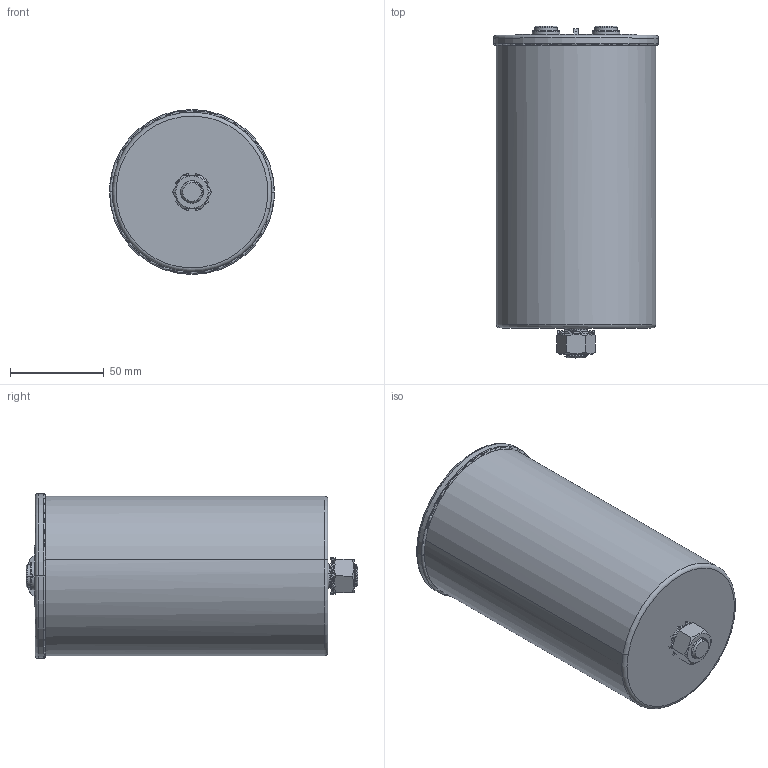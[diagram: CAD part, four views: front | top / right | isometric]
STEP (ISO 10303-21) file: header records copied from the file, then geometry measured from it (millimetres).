
FILE_DESCRIPTION (( 'STEP AP214' ), '1' );
FILE_NAME ('B25680B1307K201 Outer.STEP', '2026-04-01T09:18:29', ( '' ), ( '' ), 'SwSTEP 2.0', 'SolidWorks 2024', '' );
FILE_SCHEMA (( 'AUTOMOTIVE_DESIGN' ));
Length unit declared in the file: millimetre
Products named in the file (1): B25680B1307K201 Outer
Bounding box: 88 x 177 x 88 mm (x, y, z)
Volume: 58917.2 mm3; surface area: 119865.1 mm2
Topology: 1 solids, 3 shells, 346 faces, 867 edges, 551 vertices
Faces by surface type: cylinder 129, plane 86, bspline 64, cone 47, torus 20
Entity records: 14936 total; most frequent: CARTESIAN_POINT 7200, ORIENTED_EDGE 1726, DIRECTION 1476, EDGE_CURVE 863, AXIS2_PLACEMENT_3D 613, VERTEX_POINT 551, EDGE_LOOP 380, ADVANCED_FACE 346
